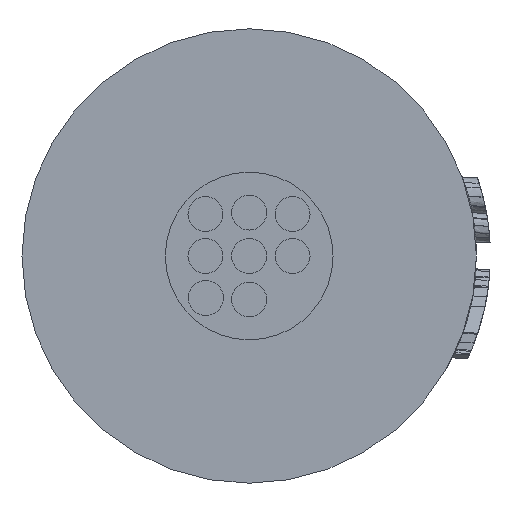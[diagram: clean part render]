
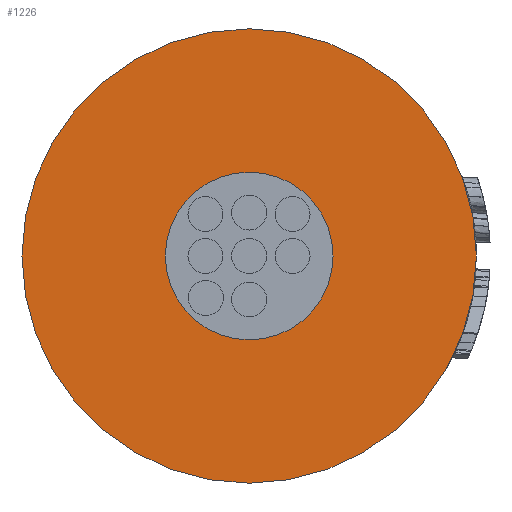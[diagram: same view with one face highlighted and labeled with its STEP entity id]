
A CAD part, front view. The second image highlights one B-rep face of the part: STEP entity #1226.
In plain terms, the highlighted planar face has unit normal (0, -1, 0).
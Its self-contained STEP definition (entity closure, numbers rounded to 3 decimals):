
#126=FACE_BOUND('',#3656,.T.);
#127=FACE_BOUND('',#3657,.T.);
#273=CIRCLE('',#13495,1.2);
#274=CIRCLE('',#13497,3.25);
#591=PLANE('',#13498);
#1226=ADVANCED_FACE('',(#126,#127),#591,.F.);
#3656=EDGE_LOOP('',(#5996));
#3657=EDGE_LOOP('',(#5997));
#5996=ORIENTED_EDGE('',*,*,#10669,.F.);
#5997=ORIENTED_EDGE('',*,*,#10668,.T.);
#8846=VERTEX_POINT('',#26732);
#8847=VERTEX_POINT('',#26735);
#10668=EDGE_CURVE('',#8846,#8846,#273,.T.);
#10669=EDGE_CURVE('',#8847,#8847,#274,.T.);
#13495=AXIS2_PLACEMENT_3D('',#26731,#14668,#14669);
#13497=AXIS2_PLACEMENT_3D('',#26734,#14672,#14673);
#13498=AXIS2_PLACEMENT_3D('',#26736,#14674,#14675);
#14668=DIRECTION('',(0.,1.,0.));
#14669=DIRECTION('',(1.,0.,0.));
#14672=DIRECTION('',(0.,1.,0.));
#14673=DIRECTION('',(1.,0.,0.));
#14674=DIRECTION('',(0.,1.,0.));
#14675=DIRECTION('',(-1.,0.,0.));
#26731=CARTESIAN_POINT('',(0.,2.,0.));
#26732=CARTESIAN_POINT('',(1.2,2.,0.));
#26734=CARTESIAN_POINT('',(0.,2.,0.));
#26735=CARTESIAN_POINT('',(3.25,2.,0.));
#26736=CARTESIAN_POINT('',(0.,2.,0.));
